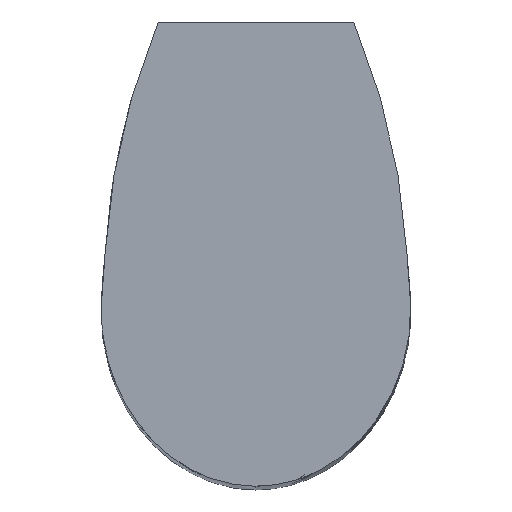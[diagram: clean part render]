
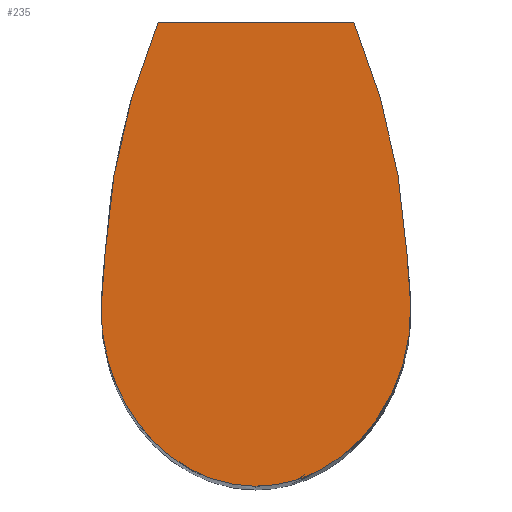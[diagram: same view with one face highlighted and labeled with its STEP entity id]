
A CAD part, top view. The second image highlights one B-rep face of the part: STEP entity #235.
In plain terms, the highlighted planar face has unit normal (0, 0, 1).
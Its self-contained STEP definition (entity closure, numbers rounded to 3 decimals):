
#1=CARTESIAN_POINT('',(-0.848,-1.608,12.));
#2=CARTESIAN_POINT('',(-0.842,-1.496,12.));
#3=CARTESIAN_POINT('',(-0.82,-1.272,12.));
#4=CARTESIAN_POINT('',(-0.738,-0.83,12.));
#5=CARTESIAN_POINT('',(-0.636,-0.508,12.));
#6=CARTESIAN_POINT('',(-0.55,-0.3,12.));
#8=DIRECTION('',(1.,0.,0.));
#9=VECTOR('',#8,1.1);
#10=CARTESIAN_POINT('',(-0.55,-0.3,12.));
#11=LINE('',#10,#9);
#12=CARTESIAN_POINT('',(-3.18,-1.839,12.));
#13=DIRECTION('',(0.,0.,-1.));
#14=DIRECTION('',(0.924,0.381,0.));
#15=AXIS2_PLACEMENT_3D('',#12,#13,#14);
#17=CARTESIAN_POINT('',(0.848,-1.608,12.));
#18=CARTESIAN_POINT('',(0.848,-1.609,12.));
#19=CARTESIAN_POINT('',(0.852,-1.641,12.));
#20=CARTESIAN_POINT('',(0.858,-1.703,12.));
#21=CARTESIAN_POINT('',(0.865,-1.796,12.));
#22=CARTESIAN_POINT('',(0.868,-1.857,12.));
#23=CARTESIAN_POINT('',(0.869,-1.887,12.));
#25=CARTESIAN_POINT('',(0.869,-1.887,12.));
#26=CARTESIAN_POINT('',(0.871,-1.964,12.));
#27=CARTESIAN_POINT('',(0.859,-2.119,12.));
#28=CARTESIAN_POINT('',(0.793,-2.338,12.));
#29=CARTESIAN_POINT('',(0.686,-2.533,12.));
#30=CARTESIAN_POINT('',(0.546,-2.695,12.));
#31=CARTESIAN_POINT('',(0.381,-2.814,12.));
#32=CARTESIAN_POINT('',(0.203,-2.888,12.));
#33=CARTESIAN_POINT('',(0.073,-2.907,12.));
#34=CARTESIAN_POINT('',(0.006,-2.908,12.));
#35=CARTESIAN_POINT('',(0.,-2.908,12.));
#37=CARTESIAN_POINT('',(0.,-2.908,12.));
#38=CARTESIAN_POINT('',(-0.061,-2.908,12.));
#39=CARTESIAN_POINT('',(-0.184,-2.892,12.));
#40=CARTESIAN_POINT('',(-0.358,-2.826,12.));
#41=CARTESIAN_POINT('',(-0.512,-2.722,12.));
#42=CARTESIAN_POINT('',(-0.643,-2.588,12.));
#43=CARTESIAN_POINT('',(-0.746,-2.431,12.));
#44=CARTESIAN_POINT('',(-0.845,-2.2,12.));
#45=CARTESIAN_POINT('',(-0.872,-2.011,12.));
#46=CARTESIAN_POINT('',(-0.869,-1.887,12.));
#48=CARTESIAN_POINT('',(-0.869,-1.887,12.));
#49=CARTESIAN_POINT('',(-0.866,-1.794,12.));
#50=CARTESIAN_POINT('',(-0.859,-1.701,12.));
#51=CARTESIAN_POINT('',(-0.848,-1.608,12.));
#206=VERTEX_POINT('',#1);
#207=VERTEX_POINT('',#6);
#208=VERTEX_POINT('',#48);
#209=VERTEX_POINT('',#37);
#210=VERTEX_POINT('',#25);
#211=VERTEX_POINT('',#17);
#212=CARTESIAN_POINT('',(0.55,-0.3,12.));
#213=VERTEX_POINT('',#212);
#214=CARTESIAN_POINT('',(0.,-0.3,12.));
#215=DIRECTION('',(0.,0.,-1.));
#216=DIRECTION('',(-1.,0.,0.));
#217=AXIS2_PLACEMENT_3D('',#214,#215,#216);
#218=PLANE('',#217);
#220=ORIENTED_EDGE('',*,*,#219,.T.);
#222=ORIENTED_EDGE('',*,*,#221,.T.);
#224=ORIENTED_EDGE('',*,*,#223,.T.);
#226=ORIENTED_EDGE('',*,*,#225,.T.);
#228=ORIENTED_EDGE('',*,*,#227,.T.);
#230=ORIENTED_EDGE('',*,*,#229,.T.);
#232=ORIENTED_EDGE('',*,*,#231,.T.);
#233=EDGE_LOOP('',(#220,#222,#224,#226,#228,#230,#232));
#234=FACE_OUTER_BOUND('',#233,.F.);
#235=ADVANCED_FACE('',(#234),#218,.F.);
#7=B_SPLINE_CURVE_WITH_KNOTS('',3,(#1,#2,#3,#4,#5,#6),.UNSPECIFIED.,.F.,.F.,(4,
1,1,4),(0.,0.25,0.5,1.),.UNSPECIFIED.);
#16=CIRCLE('',#15,4.035);
#24=B_SPLINE_CURVE_WITH_KNOTS('',3,(#17,#18,#19,#20,#21,#22,#23),.UNSPECIFIED.,
.F.,.F.,(4,1,1,1,4),(0.,0.005,0.345,0.676,
1.),.UNSPECIFIED.);
#36=B_SPLINE_CURVE_WITH_KNOTS('',3,(#25,#26,#27,#28,#29,#30,#31,#32,#33,#34,
#35),.UNSPECIFIED.,.F.,.F.,(4,1,1,1,1,1,1,1,4),(0.,0.156,
0.307,0.455,0.599,0.735,
0.862,0.988,1.),.UNSPECIFIED.);
#47=B_SPLINE_CURVE_WITH_KNOTS('',3,(#37,#38,#39,#40,#41,#42,#43,#44,#45,#46),
.UNSPECIFIED.,.F.,.F.,(4,1,1,1,1,1,1,4),(0.,0.125,0.25,0.375,0.5,
0.625,0.75,1.),.UNSPECIFIED.);
#52=B_SPLINE_CURVE_WITH_KNOTS('',3,(#48,#49,#50,#51),.UNSPECIFIED.,.F.,.F.,(4,
4),(0.,1.),.UNSPECIFIED.);
#219=EDGE_CURVE('',#206,#207,#7,.T.);
#221=EDGE_CURVE('',#207,#213,#11,.T.);
#223=EDGE_CURVE('',#213,#211,#16,.T.);
#225=EDGE_CURVE('',#211,#210,#24,.T.);
#227=EDGE_CURVE('',#210,#209,#36,.T.);
#229=EDGE_CURVE('',#209,#208,#47,.T.);
#231=EDGE_CURVE('',#208,#206,#52,.T.);
